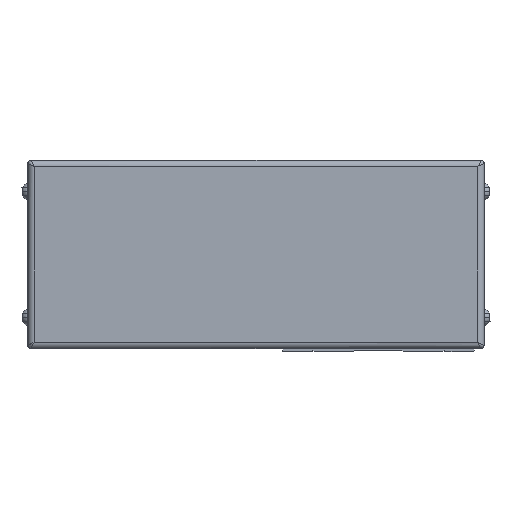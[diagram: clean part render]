
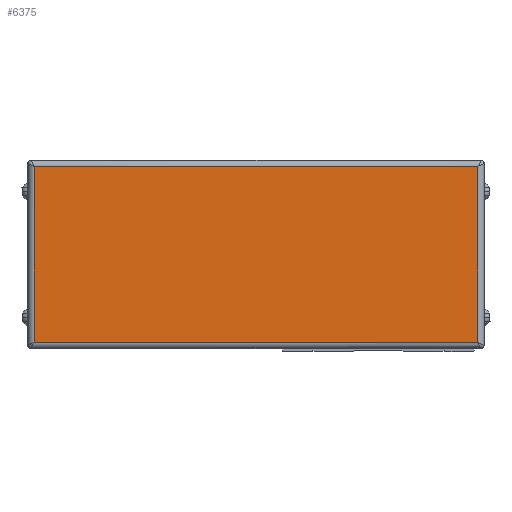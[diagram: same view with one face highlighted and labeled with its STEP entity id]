
A CAD part, left-side view. The second image highlights one B-rep face of the part: STEP entity #6375.
In plain terms, the highlighted planar face has unit normal (-1, 0, 0).
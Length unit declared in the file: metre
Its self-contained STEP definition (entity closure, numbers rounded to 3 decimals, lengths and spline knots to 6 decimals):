
#6375=ADVANCED_FACE('',(#12685),#12686,.T.);
#12685=FACE_OUTER_BOUND('',#22749,.T.);
#12686=PLANE('',#22750);
#22749=EDGE_LOOP('',(#37950,#37951,#37952,#37953));
#22750=AXIS2_PLACEMENT_3D('',#37954,#37955,#37956);
#37950=ORIENTED_EDGE('',*,*,#46108,.T.);
#37951=ORIENTED_EDGE('',*,*,#46154,.T.);
#37952=ORIENTED_EDGE('',*,*,#41388,.T.);
#37953=ORIENTED_EDGE('',*,*,#41376,.T.);
#37954=CARTESIAN_POINT('',(-0.054,0.039,-0.001));
#37955=DIRECTION('',(-1.0,0.0,0.0));
#37956=DIRECTION('',(0.0,0.,1.0));
#41376=EDGE_CURVE('',#48058,#48056,#48059,.T.);
#41388=EDGE_CURVE('',#48073,#48058,#48079,.T.);
#46108=EDGE_CURVE('',#48056,#49779,#55506,.T.);
#46154=EDGE_CURVE('',#49779,#48073,#55559,.T.);
#48056=VERTEX_POINT('',#57867);
#48058=VERTEX_POINT('',#57885);
#48059=LINE('',#57886,#57887);
#48073=VERTEX_POINT('',#57919);
#48079=LINE('',#57957,#57958);
#49779=VERTEX_POINT('',#60462);
#55506=LINE('',#69081,#69082);
#55559=LINE('',#69168,#69169);
#57867=CARTESIAN_POINT('',(-0.054,-0.0317,0.027));
#57885=CARTESIAN_POINT('',(-0.054,-0.0317,-0.029));
#57886=CARTESIAN_POINT('',(-0.054,-0.0317,-0.001));
#57887=VECTOR('',#72281,1.0);
#57919=CARTESIAN_POINT('',(-0.054,0.1097,-0.029));
#57957=CARTESIAN_POINT('',(-0.054,0.039,-0.029));
#57958=VECTOR('',#72292,1.0);
#60462=CARTESIAN_POINT('',(-0.054,0.1097,0.027));
#69081=CARTESIAN_POINT('',(-0.054,0.039,0.027));
#69082=VECTOR('',#77744,1.0);
#69168=CARTESIAN_POINT('',(-0.054,0.1097,-0.001));
#69169=VECTOR('',#77784,1.0);
#72281=DIRECTION('',(0.0,0.,1.0));
#72292=DIRECTION('',(0.0,-1.0,0.));
#77744=DIRECTION('',(0.0,1.0,0.));
#77784=DIRECTION('',(0.0,0.,-1.0));
